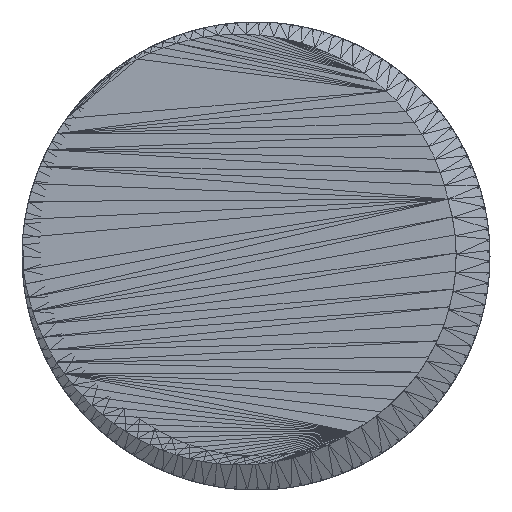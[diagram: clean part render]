
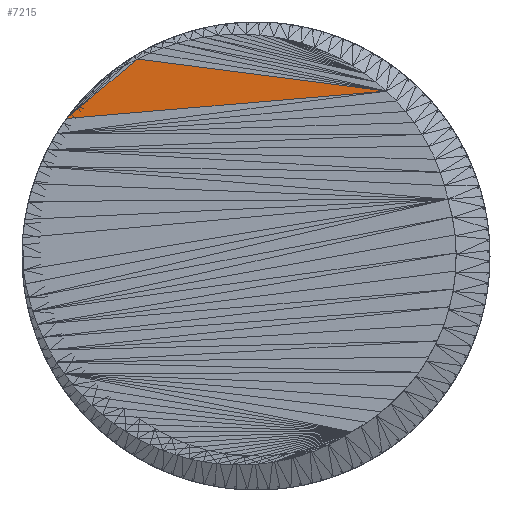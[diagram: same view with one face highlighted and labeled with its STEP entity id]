
A CAD part, left-side view. The second image highlights one B-rep face of the part: STEP entity #7215.
In plain terms, the highlighted planar face has unit normal (-1, 0, 0).
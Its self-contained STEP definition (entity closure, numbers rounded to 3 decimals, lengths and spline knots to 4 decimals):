
#7215=ADVANCED_FACE('',(#14640),#78319,.T.);
#14640=FACE_OUTER_BOUND('',#22065,.T.);
#22065=EDGE_LOOP('',(#43891,#43892,#43893));
#43891=ORIENTED_EDGE('',*,*,#51615,.F.);
#43892=ORIENTED_EDGE('',*,*,#51614,.T.);
#43893=ORIENTED_EDGE('',*,*,#51772,.T.);
#51614=EDGE_CURVE('',#69163,#69208,#62876,.T.);
#51615=EDGE_CURVE('',#69163,#70955,#62877,.T.);
#51772=EDGE_CURVE('',#69208,#70955,#63034,.T.);
#62876=B_SPLINE_CURVE_WITH_KNOTS('',1,(#118407,#118408),.UNSPECIFIED.,.F.,
 .F.,(2,2),(0.,1.),.UNSPECIFIED.);
#62877=B_SPLINE_CURVE_WITH_KNOTS('',1,(#118409,#118410),.UNSPECIFIED.,.F.,
 .F.,(2,2),(0.,1.),.UNSPECIFIED.);
#63034=B_SPLINE_CURVE_WITH_KNOTS('',1,(#118723,#118724),.UNSPECIFIED.,.F.,
 .F.,(2,2),(0.,1.),.UNSPECIFIED.);
#69163=VERTEX_POINT('',#102801);
#69208=VERTEX_POINT('',#102846);
#70955=VERTEX_POINT('',#104593);
#78319=PLANE('',#85828);
#85828=AXIS2_PLACEMENT_3D('',#100702,#93262,$);
#93262=DIRECTION('',(-1.,0.,0.));
#100702=CARTESIAN_POINT('',(194.4274,-133.1287,-1.2455));
#102801=CARTESIAN_POINT('',(194.4274,-138.514,-0.7847));
#102846=CARTESIAN_POINT('',(194.4274,-134.3162,-0.2444));
#104593=CARTESIAN_POINT('',(194.4274,-133.1287,-1.2455));
#118407=CARTESIAN_POINT('',(194.4274,-138.514,-0.7847));
#118408=CARTESIAN_POINT('',(194.4274,-134.3162,-0.2444));
#118409=CARTESIAN_POINT('',(194.4274,-138.514,-0.7847));
#118410=CARTESIAN_POINT('',(194.4274,-133.1287,-1.2455));
#118723=CARTESIAN_POINT('',(194.4274,-134.3162,-0.2444));
#118724=CARTESIAN_POINT('',(194.4274,-133.1287,-1.2455));
